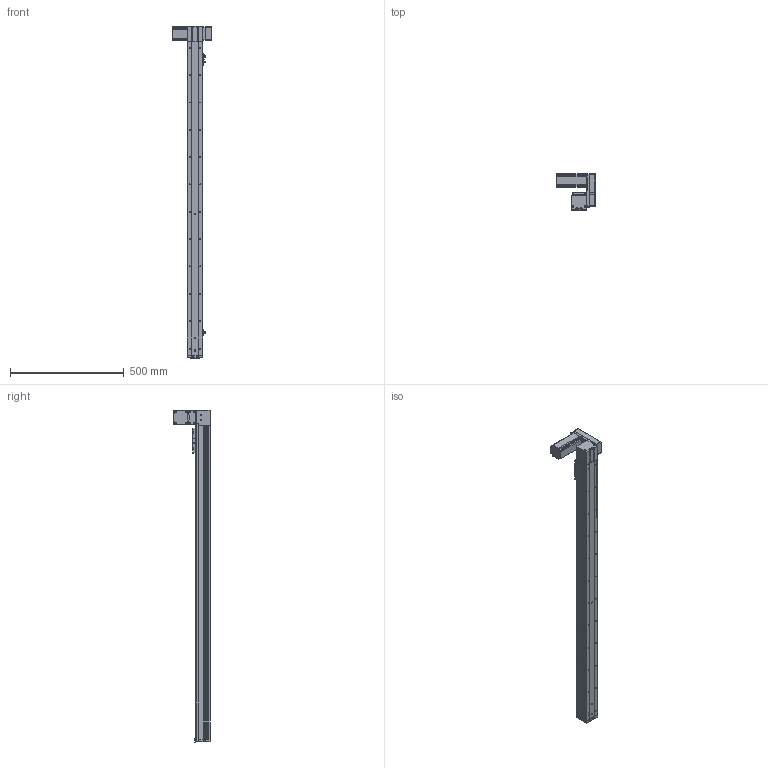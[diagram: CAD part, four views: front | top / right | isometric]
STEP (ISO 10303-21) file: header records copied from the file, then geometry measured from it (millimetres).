
FILE_DESCRIPTION (( 'STEP AP214' ), '1' );
FILE_NAME ('KSD68BS-S1200-MLU-CR.STEP', '2019-08-27T08:23:52', ( '微软用户' ), ( '微软中国' ), 'SwSTEP 2.0', 'SolidWorks 2014', '' );
FILE_SCHEMA (( 'AUTOMOTIVE_DESIGN' ));
Length unit declared in the file: millimetre
Products named in the file (14): 68宽单导轨全封闭丝杆传动安装板1防护罩; KSD68BS 1200行程侧板全封闭; 68宽单导轨全封闭同步带端板; 68单导轨全封闭同步带电机座左; 68单导轨全封闭同步带安装板; 悵誘欶奻狟殏; 68宽马达安装板连板上折同步带; 感应片68宽全封闭; U倰嫖萇EEㄜSX672; 台达ECMA－C20604AS伺服电机（400W); 68遵裔啣揤啣1; KSD68BS 1200行程底板全封闭; KSD68BS 1200行程盖板全封闭; KSD68BS-S1200-MLU-CR
Assembly tree (16 placements, depth 2):
  KSD68BS-S1200-MLU-CR
    KSD68BS 1200行程底板全封闭
    台达ECMA－C20604AS伺服电机（400W)
    U倰嫖萇EEㄜSX672  x3
    感应片68宽全封闭
    68宽马达安装板连板上折同步带
    悵誘欶奻狟殏
    68单导轨全封闭同步带安装板
    68单导轨全封闭同步带电机座左
    68宽单导轨全封闭同步带端板
    KSD68BS 1200行程侧板全封闭  x2
    68宽单导轨全封闭丝杆传动安装板1防护罩
    KSD68BS 1200行程盖板全封闭
    68遵裔啣揤啣1
Bounding box: 167.2 x 159.5 x 1458.1 mm (x, y, z)
Volume: 2806222.9 mm3; surface area: 1095779 mm2
Topology: 17 solids, 17 shells, 1496 faces, 4280 edges, 2730 vertices
Faces by surface type: cylinder 702, plane 622, cone 172
Entity records: 47895 total; most frequent: CARTESIAN_POINT 8400, DIRECTION 7152, ORIENTED_EDGE 6874, EDGE_CURVE 3437, AXIS2_PLACEMENT_3D 2574, VERTEX_POINT 2252, LINE 2004, VECTOR 2004
